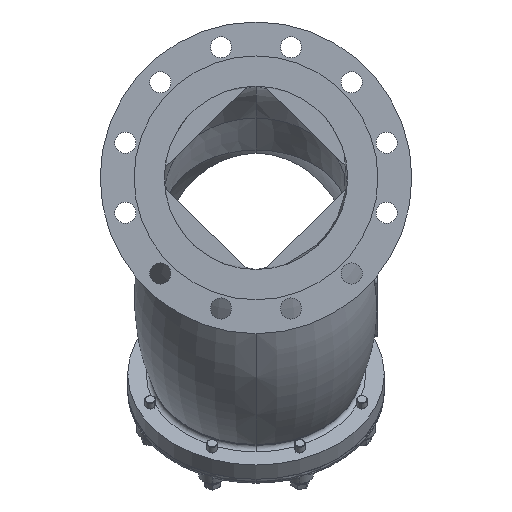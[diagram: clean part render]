
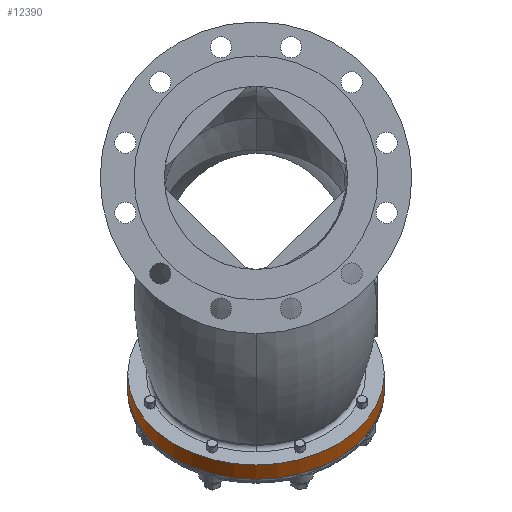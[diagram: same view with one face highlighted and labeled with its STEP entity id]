
A CAD part, left-side view. The second image highlights one B-rep face of the part: STEP entity #12390.
In plain terms, the highlighted cylindrical face has radius 140 mm (diameter 280 mm), a partial arc.
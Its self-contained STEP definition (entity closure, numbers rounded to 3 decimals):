
#240 = PLANE('',#241);
#241 = AXIS2_PLACEMENT_3D('',#242,#243,#244);
#242 = CARTESIAN_POINT('',(646.261,-48.3,
    -314.253));
#243 = DIRECTION('',(0.707,0.,-0.707)
  );
#244 = DIRECTION('',(0.707,0.,0.707));
#494 = EDGE_CURVE('',#495,#497,#499,.T.);
#495 = VERTEX_POINT('',#496);
#496 = CARTESIAN_POINT('',(645.554,-188.297,
    -314.96));
#497 = VERTEX_POINT('',#498);
#498 = CARTESIAN_POINT('',(645.554,91.696,
    -314.96));
#499 = SURFACE_CURVE('',#500,(#505,#512),.PCURVE_S1.);
#500 = CIRCLE('',#501,140.);
#501 = AXIS2_PLACEMENT_3D('',#502,#503,#504);
#502 = CARTESIAN_POINT('',(646.261,-48.3,
    -314.253));
#503 = DIRECTION('',(0.707,0.,-0.707)
  );
#504 = DIRECTION('',(0.707,0.,0.707));
#505 = PCURVE('',#240,#506);
#506 = DEFINITIONAL_REPRESENTATION('',(#507),#511);
#507 = CIRCLE('',#508,140.);
#508 = AXIS2_PLACEMENT_2D('',#509,#510);
#509 = CARTESIAN_POINT('',(0.,0.));
#510 = DIRECTION('',(1.,0.));
#511 = ( GEOMETRIC_REPRESENTATION_CONTEXT(2) 
PARAMETRIC_REPRESENTATION_CONTEXT() REPRESENTATION_CONTEXT('2D SPACE',''
  ) );
#512 = PCURVE('',#513,#518);
#513 = CYLINDRICAL_SURFACE('',#514,140.);
#514 = AXIS2_PLACEMENT_3D('',#515,#516,#517);
#515 = CARTESIAN_POINT('',(646.261,-48.3,
    -314.253));
#516 = DIRECTION('',(0.707,0.,-0.707)
  );
#517 = DIRECTION('',(0.707,0.,0.707));
#518 = DEFINITIONAL_REPRESENTATION('',(#519),#523);
#519 = LINE('',#520,#521);
#520 = CARTESIAN_POINT('',(0.,0.));
#521 = VECTOR('',#522,1.);
#522 = DIRECTION('',(1.,0.));
#523 = ( GEOMETRIC_REPRESENTATION_CONTEXT(2) 
PARAMETRIC_REPRESENTATION_CONTEXT() REPRESENTATION_CONTEXT('2D SPACE',''
  ) );
#541 = PLANE('',#542);
#542 = AXIS2_PLACEMENT_3D('',#543,#544,#545);
#543 = CARTESIAN_POINT('',(645.554,-188.297,
    -314.96));
#544 = DIRECTION('',(0.5,-0.707,0.5));
#545 = DIRECTION('',(0.816,0.577,0.));
#681 = PLANE('',#682);
#682 = AXIS2_PLACEMENT_3D('',#683,#684,#685);
#683 = CARTESIAN_POINT('',(645.554,91.696,
    -314.96));
#684 = DIRECTION('',(0.5,0.707,0.5));
#685 = DIRECTION('',(-0.816,0.577,0.)
  );
#1212 = PLANE('',#1213);
#1213 = AXIS2_PLACEMENT_3D('',#1214,#1215,#1216);
#1214 = CARTESIAN_POINT('',(661.817,-48.3,
    -329.81));
#1215 = DIRECTION('',(0.707,0.,-0.707
    ));
#1216 = DIRECTION('',(0.707,0.,0.707)
  );
#12390 = ADVANCED_FACE('',(#12391),#513,.T.);
#12391 = FACE_BOUND('',#12392,.T.);
#12392 = EDGE_LOOP('',(#12393,#12419,#12440,#12441));
#12393 = ORIENTED_EDGE('',*,*,#12394,.F.);
#12394 = EDGE_CURVE('',#12395,#12397,#12399,.T.);
#12395 = VERTEX_POINT('',#12396);
#12396 = CARTESIAN_POINT('',(661.11,-188.297,
    -330.517));
#12397 = VERTEX_POINT('',#12398);
#12398 = CARTESIAN_POINT('',(661.11,91.696,
    -330.517));
#12399 = SURFACE_CURVE('',#12400,(#12405,#12412),.PCURVE_S1.);
#12400 = CIRCLE('',#12401,140.);
#12401 = AXIS2_PLACEMENT_3D('',#12402,#12403,#12404);
#12402 = CARTESIAN_POINT('',(661.817,-48.3,
    -329.81));
#12403 = DIRECTION('',(0.707,0.,
    -0.707));
#12404 = DIRECTION('',(0.707,0.,0.707)
  );
#12405 = PCURVE('',#513,#12406);
#12406 = DEFINITIONAL_REPRESENTATION('',(#12407),#12411);
#12407 = LINE('',#12408,#12409);
#12408 = CARTESIAN_POINT('',(0.,22.));
#12409 = VECTOR('',#12410,1.);
#12410 = DIRECTION('',(1.,0.));
#12411 = ( GEOMETRIC_REPRESENTATION_CONTEXT(2) 
PARAMETRIC_REPRESENTATION_CONTEXT() REPRESENTATION_CONTEXT('2D SPACE',''
  ) );
#12412 = PCURVE('',#1212,#12413);
#12413 = DEFINITIONAL_REPRESENTATION('',(#12414),#12418);
#12414 = CIRCLE('',#12415,140.);
#12415 = AXIS2_PLACEMENT_2D('',#12416,#12417);
#12416 = CARTESIAN_POINT('',(0.,0.));
#12417 = DIRECTION('',(1.,0.));
#12418 = ( GEOMETRIC_REPRESENTATION_CONTEXT(2) 
PARAMETRIC_REPRESENTATION_CONTEXT() REPRESENTATION_CONTEXT('2D SPACE',''
  ) );
#12419 = ORIENTED_EDGE('',*,*,#12420,.F.);
#12420 = EDGE_CURVE('',#495,#12395,#12421,.T.);
#12421 = SURFACE_CURVE('',#12422,(#12426,#12433),.PCURVE_S1.);
#12422 = LINE('',#12423,#12424);
#12423 = CARTESIAN_POINT('',(645.554,-188.297,
    -314.96));
#12424 = VECTOR('',#12425,1.);
#12425 = DIRECTION('',(0.707,0.,-0.707));
#12426 = PCURVE('',#513,#12427);
#12427 = DEFINITIONAL_REPRESENTATION('',(#12428),#12432);
#12428 = LINE('',#12429,#12430);
#12429 = CARTESIAN_POINT('',(1.578,0.));
#12430 = VECTOR('',#12431,1.);
#12431 = DIRECTION('',(0.,1.));
#12432 = ( GEOMETRIC_REPRESENTATION_CONTEXT(2) 
PARAMETRIC_REPRESENTATION_CONTEXT() REPRESENTATION_CONTEXT('2D SPACE',''
  ) );
#12433 = PCURVE('',#541,#12434);
#12434 = DEFINITIONAL_REPRESENTATION('',(#12435),#12439);
#12435 = LINE('',#12436,#12437);
#12436 = CARTESIAN_POINT('',(0.,0.));
#12437 = VECTOR('',#12438,1.);
#12438 = DIRECTION('',(0.577,-0.816));
#12439 = ( GEOMETRIC_REPRESENTATION_CONTEXT(2) 
PARAMETRIC_REPRESENTATION_CONTEXT() REPRESENTATION_CONTEXT('2D SPACE',''
  ) );
#12440 = ORIENTED_EDGE('',*,*,#494,.T.);
#12441 = ORIENTED_EDGE('',*,*,#12442,.T.);
#12442 = EDGE_CURVE('',#497,#12397,#12443,.T.);
#12443 = SURFACE_CURVE('',#12444,(#12448,#12455),.PCURVE_S1.);
#12444 = LINE('',#12445,#12446);
#12445 = CARTESIAN_POINT('',(645.554,91.696,
    -314.96));
#12446 = VECTOR('',#12447,1.);
#12447 = DIRECTION('',(0.707,0.,-0.707));
#12448 = PCURVE('',#513,#12449);
#12449 = DEFINITIONAL_REPRESENTATION('',(#12450),#12454);
#12450 = LINE('',#12451,#12452);
#12451 = CARTESIAN_POINT('',(4.705,0.));
#12452 = VECTOR('',#12453,1.);
#12453 = DIRECTION('',(0.,1.));
#12454 = ( GEOMETRIC_REPRESENTATION_CONTEXT(2) 
PARAMETRIC_REPRESENTATION_CONTEXT() REPRESENTATION_CONTEXT('2D SPACE',''
  ) );
#12455 = PCURVE('',#681,#12456);
#12456 = DEFINITIONAL_REPRESENTATION('',(#12457),#12461);
#12457 = LINE('',#12458,#12459);
#12458 = CARTESIAN_POINT('',(0.,0.));
#12459 = VECTOR('',#12460,1.);
#12460 = DIRECTION('',(-0.577,-0.816));
#12461 = ( GEOMETRIC_REPRESENTATION_CONTEXT(2) 
PARAMETRIC_REPRESENTATION_CONTEXT() REPRESENTATION_CONTEXT('2D SPACE',''
  ) );
